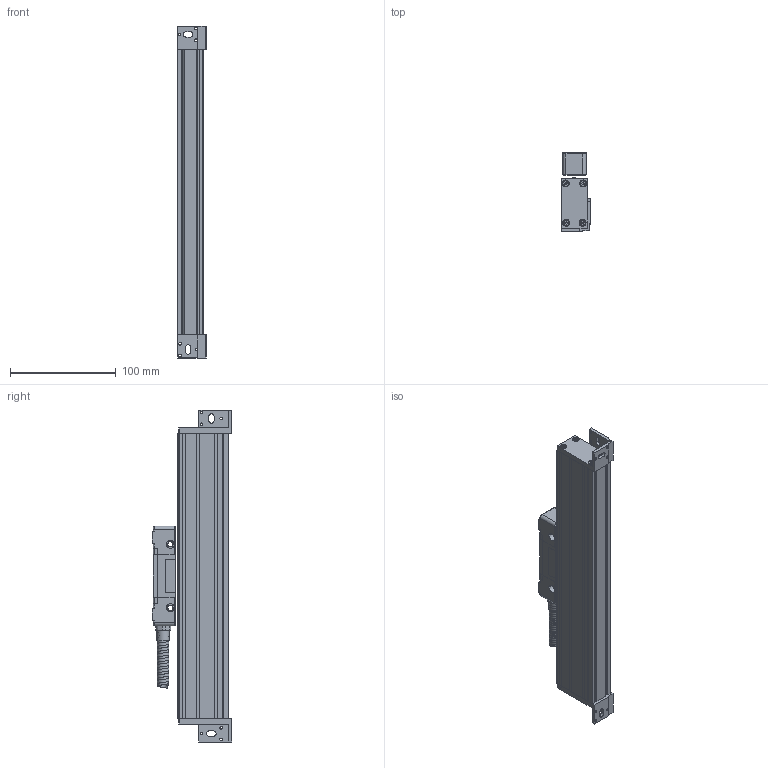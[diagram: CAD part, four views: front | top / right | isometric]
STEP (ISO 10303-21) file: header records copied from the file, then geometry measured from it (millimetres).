
FILE_DESCRIPTION (( 'STEP AP214' ), '1' );
FILE_NAME ('MLC310x0150.STEP', '2021-05-08T11:46:15', ( '' ), ( '' ), 'SwSTEP 2.0', 'SolidWorks 2014', '' );
FILE_SCHEMA (( 'AUTOMOTIVE_DESIGN' ));
Length unit declared in the file: millimetre
Products named in the file (1): MLC310x0150
Bounding box: 27 x 75.15 x 314 mm (x, y, z)
Surface area: 70793.1 mm2 (no closed solid volume)
Topology: 0 solids, 19 shells, 476 faces, 1744 edges, 1268 vertices
Faces by surface type: plane 188, cylinder 155, cone 83, bspline 40, torus 10
Entity records: 34793 total; most frequent: CARTESIAN_POINT 14890, DIRECTION 2987, ORIENTED_EDGE 2897, EDGE_CURVE 1736, VERTEX_POINT 1268, AXIS2_PLACEMENT_3D 1040, LINE 907, VECTOR 907
